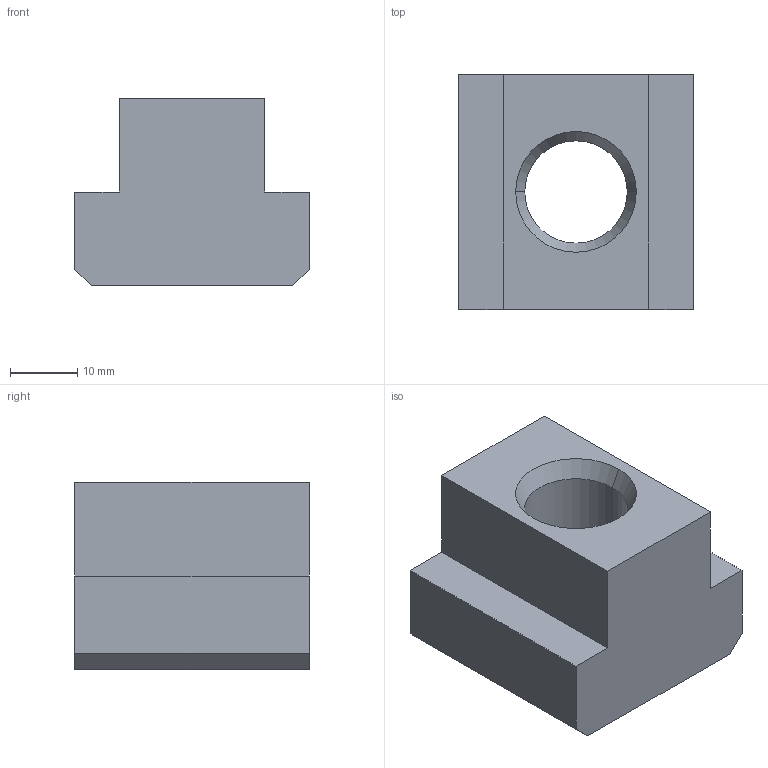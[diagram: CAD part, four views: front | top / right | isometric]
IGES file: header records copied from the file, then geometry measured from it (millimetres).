
Start section: 3D InterOp IGES (v. 2018 1.0.2), Spatial Corp. Copyright (c) 1999-2017.
Global section: file name: HWS_9016_18_22.igs; native system: Spatial Corp.; preprocessor: 3D InterOp GENERIC/IGES 3.0; author: Noname; organization: Noname; date: 20191015.144833; units: metre
Bounding box: 35 x 35 x 28 mm (x, y, z)
Surface area: 6775.2 mm2 (no closed solid volume)
Topology: 0 solids, 0 shells, 18 faces, 88 edges, 88 vertices
Faces by surface type: extrusion 12, revolution 6
